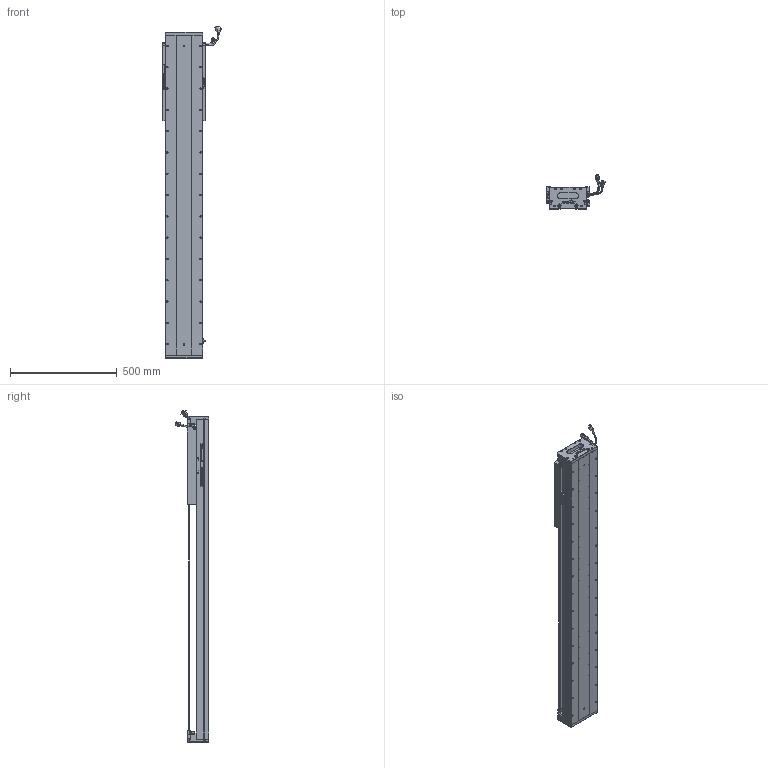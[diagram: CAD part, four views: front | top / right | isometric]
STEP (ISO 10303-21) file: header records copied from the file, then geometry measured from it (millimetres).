
FILE_DESCRIPTION (( 'STEP AP203' ), '1' );
FILE_NAME ('Z5-RY170D-1-L500-B-K.SLDASM_1050.step', '2021-05-18T00:40:02', ( '盈信电脑' ), ( '东莞市道滘镇水果街19号' ), 'SwSTEP 2.0', 'SolidWorks 2016', '' );
FILE_SCHEMA (( 'CONFIG_CONTROL_DESIGN' ));
Length unit declared in the file: millimetre
Products named in the file (36): Z5-RY170-L500耀郪菁釱_1050; Z5-RY170-L500詩湍145mm遵_1050; 覜茼ん672; HARNESS; SCALE; COVER; SHIELDPLATE; Z-RY170詩湍奻揤裔; Z5-RY170臏賑輸(21遴); COVER-Part-1; LABEL-Part-1; 榋妏寠巭燃_暯_M2_2; SEAL-Part-1; 080黍杅芛假蚾釱21遴; HARNESS-Part-2; Z-RY170詩湍狟揤裔; LABEL; SCREW-M1.7-1; SCALE-Part-1; PBU_SHEET; 140蚥薯蝶輸; SCREW-M1.6; RY170直线电机感应器672光电感应片; SCREW-M1.6-1; 170-Z-臏賑輸盄裔(21遴); PSLH080_PSLF2; HOLDER0; SCALE-Part-2; SCREW-M1.6-2; SCREW-M1.6-3; Z5-RY170D-1-L500-B-K.SLDASM_1050; HARNESS-Part-1; SCREW-M1.7; SEAL; 140雄赽晤鎢ん堤盄; Z-170詩湍傷裔啣
Assembly tree (41 placements, depth 4):
  Z5-RY170D-1-L500-B-K.SLDASM_1050
    Z5-RY170-L500耀郪菁釱_1050
    RY170直线电机感应器672光电感应片
    Z5-RY170臏賑輸(21遴)
    覜茼ん672  x3
    PSLH080_PSLF2
      SCALE
        SCALE-Part-1
        SCALE-Part-2
      HARNESS
        HARNESS-Part-1
        HARNESS-Part-2
      LABEL
        LABEL-Part-1
      COVER
        COVER-Part-1
      SEAL
        SEAL-Part-1
      榋妏寠巭燃_暯_M2_2
      SHIELDPLATE
      SCREW-M1.7
      SCREW-M1.7-1
      PBU_SHEET
      SCREW-M1.6
      SCREW-M1.6-1
      SCREW-M1.6-2
      SCREW-M1.6-3
      HOLDER0
    080黍杅芛假蚾釱21遴
    Z5-RY170-L500詩湍145mm遵_1050
    Z-170詩湍傷裔啣  x2
    Z-RY170詩湍奻揤裔  x2
    Z-RY170詩湍狟揤裔  x2
    140蚥薯蝶輸  x2
    170-Z-臏賑輸盄裔(21遴)
    140雄赽晤鎢ん堤盄
Bounding box: 275.33 x 158.11 x 1558.72 mm (x, y, z)
Volume: 8987855.3 mm3; surface area: 2121679.4 mm2
Topology: 36 solids, 36 shells, 3454 faces, 9351 edges, 5869 vertices
Faces by surface type: cylinder 1650, plane 1230, cone 452, torus 69, bspline 53
Entity records: 104111 total; most frequent: CARTESIAN_POINT 27224, ORIENTED_EDGE 15418, DIRECTION 14969, EDGE_CURVE 7709, AXIS2_PLACEMENT_3D 5520, VERTEX_POINT 4987, VECTOR 3929, LINE 3929
